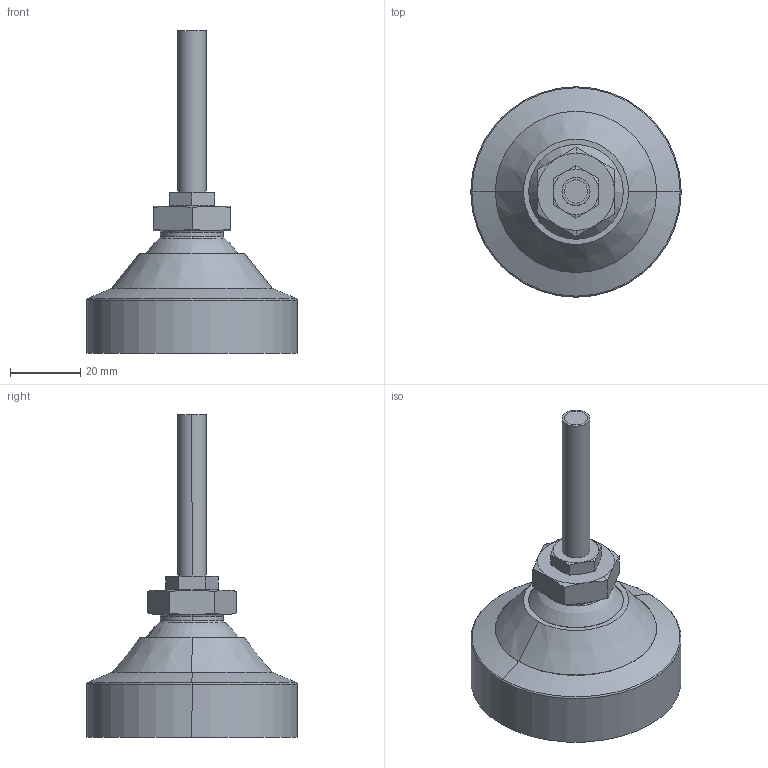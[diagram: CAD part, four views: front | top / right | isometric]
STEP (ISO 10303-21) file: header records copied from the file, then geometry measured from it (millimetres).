
FILE_DESCRIPTION((''),'1');
FILE_NAME('LALAH_M8_stainless.step','2020-05-13T09:23:46',(''),(''),'','','');
FILE_SCHEMA(('AUTOMOTIVE_DESIGN { 1 0 10303 214 1 1 1 1 }'));
Length unit declared in the file: metre
Products named in the file (4): LALAH M8_stainless; LALAH nut 01; LALAH part 02; LALAH base 01
Assembly tree (3 placements, depth 2):
  LALAH M8_stainless
    LALAH nut 01
    LALAH part 02
    LALAH base 01
Bounding box: 60 x 60 x 92 mm (x, y, z)
Volume: 69083.7 mm3; surface area: 21560.6 mm2
Topology: 3 solids, 4 shells, 92 faces, 193 edges, 112 vertices
Faces by surface type: cone 42, plane 23, cylinder 20, torus 4, bspline 2, revolution 1
Entity records: 4656 total; most frequent: CARTESIAN_POINT 2682, DIRECTION 409, ORIENTED_EDGE 382, EDGE_CURVE 193, AXIS2_PLACEMENT_3D 179, VERTEX_POINT 112, EDGE_LOOP 99, ADVANCED_FACE 89
